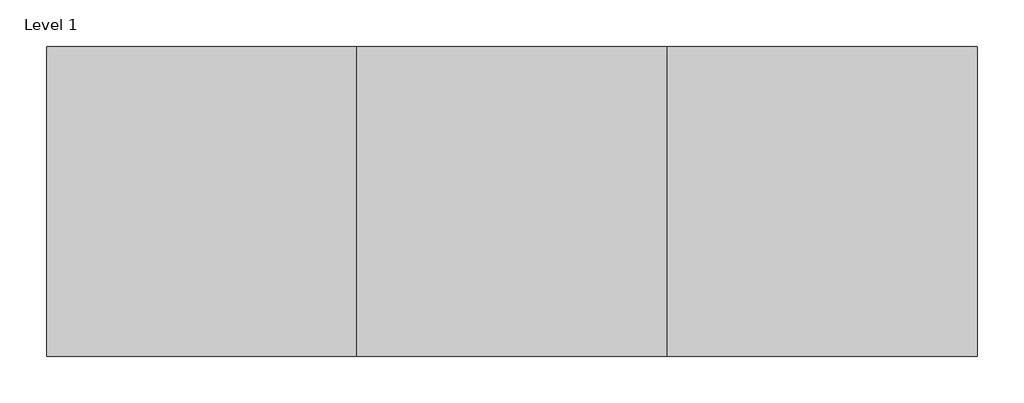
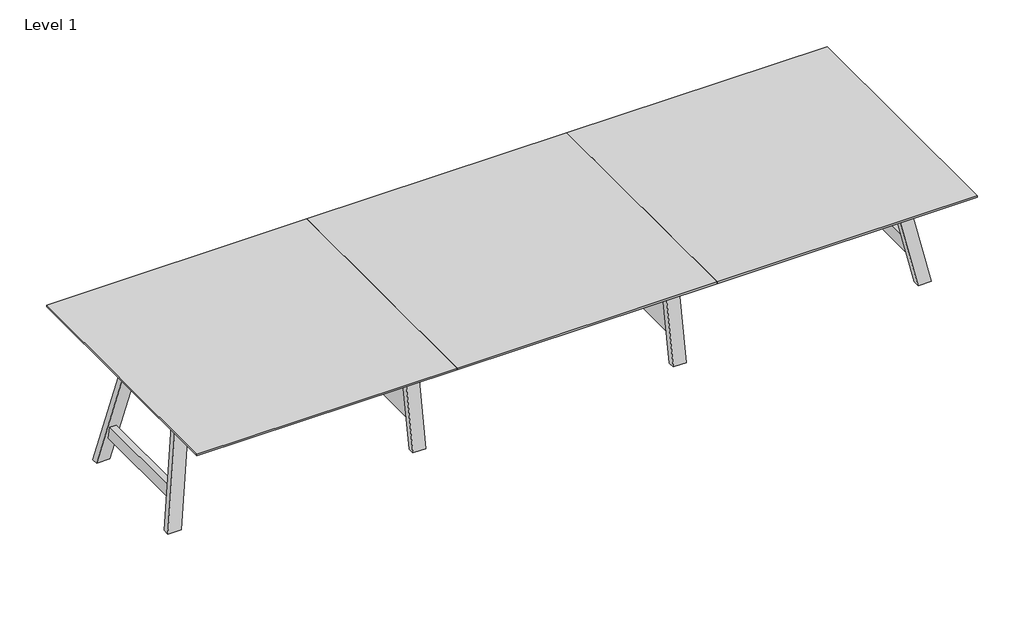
# One storey: 1 proxy.
"""IFC4 building model written with IfcOpenShell, lengths in millimetres."""

from ifc_helpers import new_model, si_unit, origin, place, context, project, spatial, transform, mapped, element, save
from components import generic_models_4b72d3c3

model = new_model("IFC4")

# Units and contexts
model_context = context("Model", 3, world=origin())
ifc_project = project(units=[si_unit("LENGTHUNIT", "METRE", prefix="MILLI")], contexts=[model_context])

# Site, building, storey
site = spatial("IfcSite", under=ifc_project)
building = spatial("IfcBuilding", under=site)
storey = spatial("IfcBuildingStorey", under=building, Name="Level 1", Elevation=0.0)

# Proxy
placement = place(None, origin())
generic_models_shape = generic_models_4b72d3c3(model_context)
element("IfcBuildingElementProxy", 1, Name="GRADIENT^TABLE 6A_CANTED LEGS-VERTICAL STRETCHERS", ObjectType="GRADIENT^TABLE 6A_CANTED LEGS-VERTICAL STRETCHERS", at=placement, inside=storey, context=model_context, shape_type="MappedRepresentation", body=[
    mapped(generic_models_shape, transform((0.0, -1524.0, 711.2), x_axis=(1.0, 0.0, 0.0), y_axis=(0.0, 0.0, 1.0), z_axis=(0.0, -1.0, 0.0))),
])

save(model, "model.ifc")
